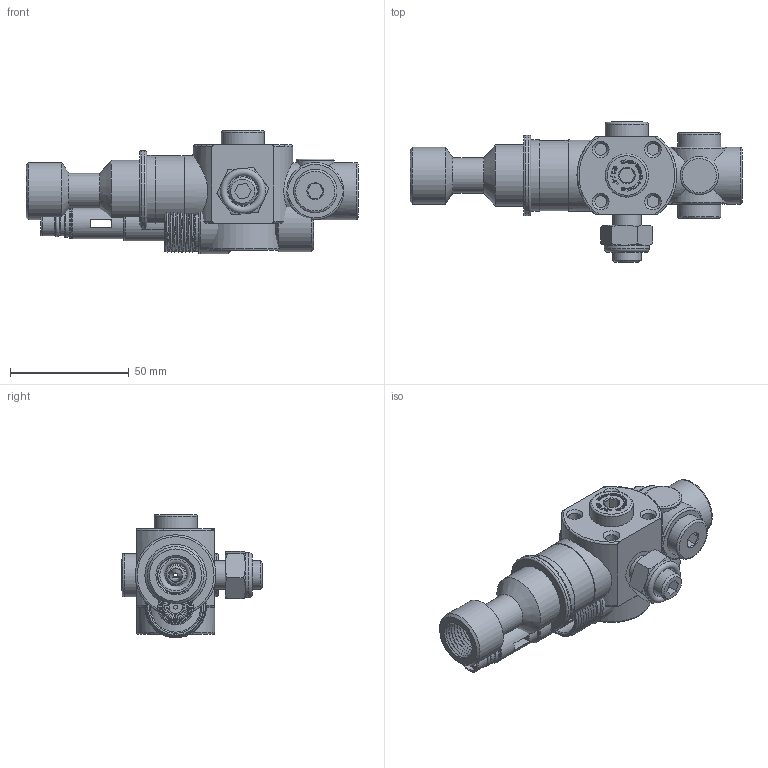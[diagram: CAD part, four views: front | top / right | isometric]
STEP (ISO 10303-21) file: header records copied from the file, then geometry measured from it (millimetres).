
FILE_DESCRIPTION( ( 'Unknown' ), '1' );
FILE_NAME( 'C:/Documents and Settings/Owner/官帕 拳搁/1/VSM 302P-12F-ML12.stp', 'Unknown', ( 'Unknown' ), ( 'Unknown' ), 'PSStep 10.0', 'Unknown', ' ' );
FILE_SCHEMA( ( 'AUTOMOTIVE_DESIGN { 1 0 10303 214 1 1 1 1 }' ) );
Length unit declared in the file: millimetre
Products named in the file (8): Assem1; 302P; speeder moudle_20130528_0; Plug14_New_PPS_0; VC(L)302P_2; Screw nut(M12); Nylon nut(M12); Plug14_New_PPS
Bounding box: 139.8 x 59.2 x 52.15 mm (x, y, z)
Surface area: 122032.2 mm2 (no closed solid volume)
Topology: 0 solids, 1428 shells, 1437 faces, 6119 edges, 5726 vertices
Faces by surface type: plane 783, cylinder 221, torus 140, cone 126, extrusion 81, bspline 72, revolution 14
Full cylindrical faces by diameter (mm): 4.917 x12, 5.5 x3, 7 x3, 7.4 x6, 8 x3, 8.5 x6, 9 x9, 9.3 x6, 10.4 x2, 10.8 x6, 11.445 x18, 11.835 x3, 11.9 x5, 12 x2, 13 x5, 13.1 x3, 13.2 x2, 15 x9, 15.9 x2, 16 x3, 16.5 x9, 17 x3, 18.2 x9, 18.631 x3, 19 x2, 21 x3, 22.835 x3, 23.5 x3, 24 x9, 25.2 x3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
Entity records: 34735 total; most frequent: CARTESIAN_POINT 15951, DIRECTION 2820, ORIENTED_EDGE 1908, EDGE_CURVE 1908, VERTEX_POINT 1908, VECTOR 1085, LINE 1058, AXIS2_PLACEMENT_3D 864
